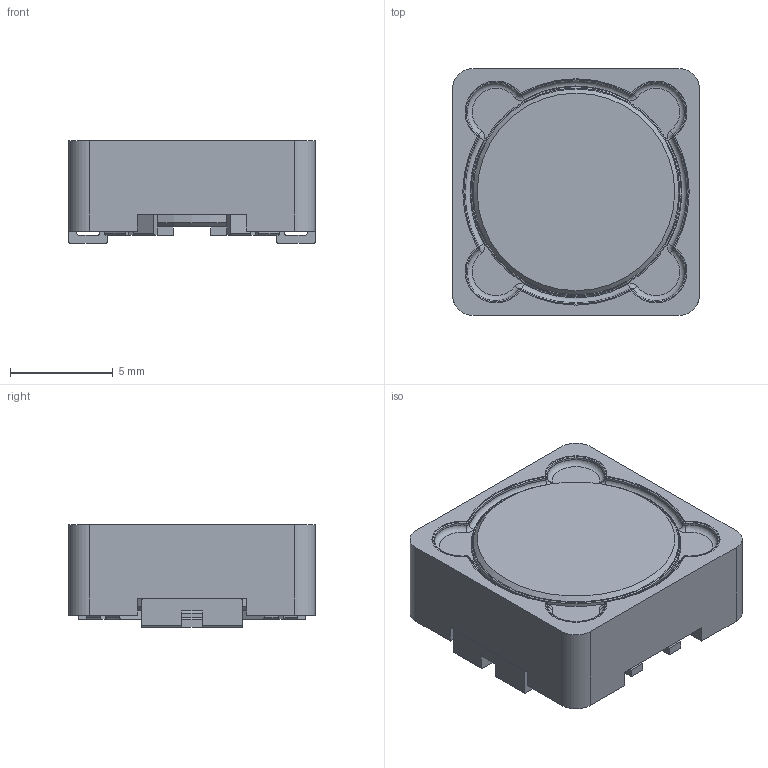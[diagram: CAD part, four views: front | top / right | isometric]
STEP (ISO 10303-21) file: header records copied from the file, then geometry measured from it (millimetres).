
FILE_DESCRIPTION(('FreeCAD Model'),'2;1');
FILE_NAME('Open CASCADE Shape Model','2026-03-10T12:14:09',(''),(''), 'Open CASCADE STEP processor 7.8','FreeCAD','Unknown');
FILE_SCHEMA(('AUTOMOTIVE_DESIGN { 1 0 10303 214 1 1 1 1 }'));
Length unit declared in the file: millimetre
Products named in the file (6): SRI1204; Glue; Spool; Pin002; Pin001; Shield
Assembly tree (5 placements, depth 2):
  SRI1204
    Glue
    Spool
    Pin002
    Pin001
    Shield
Bounding box: 12 x 12 x 5 mm (x, y, z)
Volume: 444.2 mm3; surface area: 1105.6 mm2
Topology: 5 solids, 5 shells, 225 faces, 603 edges, 387 vertices
Faces by surface type: plane 121, cylinder 69, torus 33, cone 2
Full cylindrical faces by diameter (mm): 8 x1, 10 x3, 10.2 x1
Entity records: 7194 total; most frequent: DIRECTION 1279, CARTESIAN_POINT 1221, ORIENTED_EDGE 1206, EDGE_CURVE 603, AXIS2_PLACEMENT_3D 445, LINE 389, VECTOR 389, VERTEX_POINT 387
